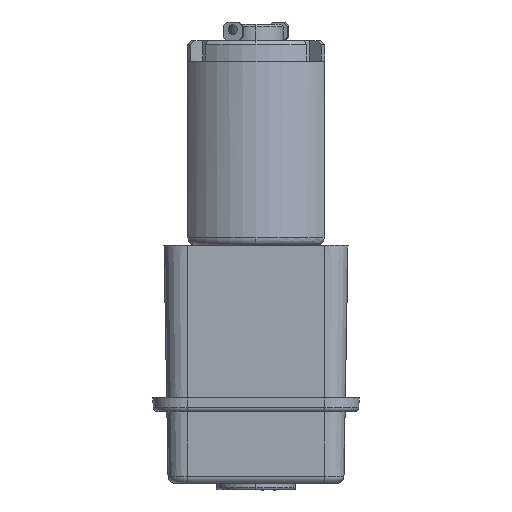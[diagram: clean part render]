
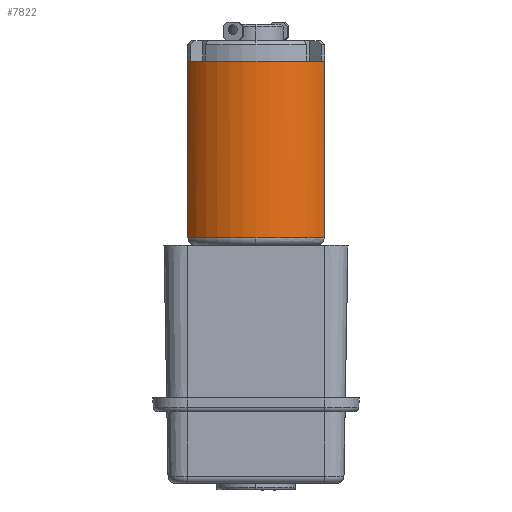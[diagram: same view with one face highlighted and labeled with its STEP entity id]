
A CAD part, front view. The second image highlights one B-rep face of the part: STEP entity #7822.
In plain terms, the highlighted cylindrical face has radius 5.98 mm (diameter 11.96 mm), a partial arc.
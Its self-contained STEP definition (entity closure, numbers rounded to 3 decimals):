
#149 = DIRECTION ( 'NONE',  ( 0., 0., -1. ) ) ;
#344 = AXIS2_PLACEMENT_3D ( 'NONE', #4869, #2894, #11415 ) ;
#448 = DIRECTION ( 'NONE',  ( 0., 1., 0. ) ) ;
#836 = VERTEX_POINT ( 'NONE', #2007 ) ;
#1599 = VERTEX_POINT ( 'NONE', #2464 ) ;
#1665 = ORIENTED_EDGE ( 'NONE', *, *, #5806, .T. ) ;
#1745 = EDGE_CURVE ( 'NONE', #8079, #10672, #6639, .T. ) ;
#1907 = AXIS2_PLACEMENT_3D ( 'NONE', #7582, #11888, #13058 ) ;
#2007 = CARTESIAN_POINT ( 'NONE',  ( -4.725, 13.45, 3.665 ) ) ;
#2055 = ORIENTED_EDGE ( 'NONE', *, *, #7796, .F. ) ;
#2135 = VERTEX_POINT ( 'NONE', #11173 ) ;
#2421 = CARTESIAN_POINT ( 'NONE',  ( 0., 0.6, 0. ) ) ;
#2441 = CARTESIAN_POINT ( 'NONE',  ( 4.95, 13.45, 3.355 ) ) ;
#2464 = CARTESIAN_POINT ( 'NONE',  ( 4.95, 0.6, 3.355 ) ) ;
#2581 = ORIENTED_EDGE ( 'NONE', *, *, #6054, .T. ) ;
#2741 = VECTOR ( 'NONE', #4980, 1000. ) ;
#2894 = DIRECTION ( 'NONE',  ( 0., 1., 0. ) ) ;
#2976 = DIRECTION ( 'NONE',  ( 0., 1., 0. ) ) ;
#3423 = CARTESIAN_POINT ( 'NONE',  ( -4.95, 0.6, 3.355 ) ) ;
#3565 = CARTESIAN_POINT ( 'NONE',  ( 4.725, 13.45, 3.665 ) ) ;
#3886 = EDGE_CURVE ( 'NONE', #2135, #836, #12218, .T. ) ;
#3900 = CARTESIAN_POINT ( 'NONE',  ( 0., 0.6, 0. ) ) ;
#3952 = ORIENTED_EDGE ( 'NONE', *, *, #10544, .F. ) ;
#4175 = ORIENTED_EDGE ( 'NONE', *, *, #9539, .F. ) ;
#4842 = CYLINDRICAL_SURFACE ( 'NONE', #8389, 5.98 ) ;
#4869 = CARTESIAN_POINT ( 'NONE',  ( 0., 13.45, 0. ) ) ;
#4980 = DIRECTION ( 'NONE',  ( 0., -1., 0. ) ) ;
#5155 = CARTESIAN_POINT ( 'NONE',  ( 0., 13.45, 0. ) ) ;
#5806 = EDGE_CURVE ( 'NONE', #2135, #8079, #13459, .T. ) ;
#5936 = AXIS2_PLACEMENT_3D ( 'NONE', #12724, #10530, #11636 ) ;
#6054 = EDGE_CURVE ( 'NONE', #10672, #1599, #6793, .T. ) ;
#6131 = ORIENTED_EDGE ( 'NONE', *, *, #3886, .F. ) ;
#6135 = DIRECTION ( 'NONE',  ( 0., 0., 1. ) ) ;
#6232 = AXIS2_PLACEMENT_3D ( 'NONE', #5155, #2976, #11289 ) ;
#6256 = ORIENTED_EDGE ( 'NONE', *, *, #12884, .F. ) ;
#6314 = VERTEX_POINT ( 'NONE', #8547 ) ;
#6393 = DIRECTION ( 'NONE',  ( 0., 1., 0. ) ) ;
#6415 = CIRCLE ( 'NONE', #344, 5.98 ) ;
#6504 = ORIENTED_EDGE ( 'NONE', *, *, #1745, .T. ) ;
#6619 = CARTESIAN_POINT ( 'NONE',  ( 0., 13.45, 0. ) ) ;
#6639 = CIRCLE ( 'NONE', #10177, 5.98 ) ;
#6688 = FACE_OUTER_BOUND ( 'NONE', #9691, .T. ) ;
#6793 = CIRCLE ( 'NONE', #8556, 5.98 ) ;
#6808 = CARTESIAN_POINT ( 'NONE',  ( 0., 13.45, 0. ) ) ;
#6943 = DIRECTION ( 'NONE',  ( 0., 0., 1. ) ) ;
#7206 = AXIS2_PLACEMENT_3D ( 'NONE', #6808, #8954, #6943 ) ;
#7354 = EDGE_CURVE ( 'NONE', #836, #12468, #12152, .T. ) ;
#7582 = CARTESIAN_POINT ( 'NONE',  ( 0., 13.45, 0. ) ) ;
#7796 = EDGE_CURVE ( 'NONE', #12101, #11172, #8176, .T. ) ;
#7822 = ADVANCED_FACE ( 'NONE', ( #6688 ), #4842, .T. ) ;
#8079 = VERTEX_POINT ( 'NONE', #3423 ) ;
#8176 = CIRCLE ( 'NONE', #1907, 5.98 ) ;
#8196 = CARTESIAN_POINT ( 'NONE',  ( 0., 0.6, 5.98 ) ) ;
#8389 = AXIS2_PLACEMENT_3D ( 'NONE', #6619, #12985, #149 ) ;
#8493 = ORIENTED_EDGE ( 'NONE', *, *, #7354, .F. ) ;
#8547 = CARTESIAN_POINT ( 'NONE',  ( 3.665, 13.45, 4.725 ) ) ;
#8556 = AXIS2_PLACEMENT_3D ( 'NONE', #2421, #448, #9001 ) ;
#8886 = LINE ( 'NONE', #2441, #12278 ) ;
#8954 = DIRECTION ( 'NONE',  ( 0., 1., 0. ) ) ;
#9001 = DIRECTION ( 'NONE',  ( 0., 0., 1. ) ) ;
#9399 = CARTESIAN_POINT ( 'NONE',  ( 4.95, 13.45, 3.355 ) ) ;
#9539 = EDGE_CURVE ( 'NONE', #12468, #6314, #10292, .T. ) ;
#9691 = EDGE_LOOP ( 'NONE', ( #1665, #6504, #2581, #3952, #2055, #6256, #4175, #8493, #6131 ) ) ;
#10177 = AXIS2_PLACEMENT_3D ( 'NONE', #3900, #6393, #6135 ) ;
#10292 = CIRCLE ( 'NONE', #7206, 5.98 ) ;
#10530 = DIRECTION ( 'NONE',  ( 0., 1., 0. ) ) ;
#10544 = EDGE_CURVE ( 'NONE', #11172, #1599, #8886, .T. ) ;
#10672 = VERTEX_POINT ( 'NONE', #8196 ) ;
#11172 = VERTEX_POINT ( 'NONE', #9399 ) ;
#11173 = CARTESIAN_POINT ( 'NONE',  ( -4.95, 13.45, 3.355 ) ) ;
#11289 = DIRECTION ( 'NONE',  ( 0., 0., 1. ) ) ;
#11415 = DIRECTION ( 'NONE',  ( 0., 0., 1. ) ) ;
#11636 = DIRECTION ( 'NONE',  ( 0., 0., 1. ) ) ;
#11888 = DIRECTION ( 'NONE',  ( 0., 1., 0. ) ) ;
#12031 = CARTESIAN_POINT ( 'NONE',  ( -3.665, 13.45, 4.725 ) ) ;
#12101 = VERTEX_POINT ( 'NONE', #3565 ) ;
#12152 = CIRCLE ( 'NONE', #5936, 5.98 ) ;
#12218 = CIRCLE ( 'NONE', #6232, 5.98 ) ;
#12278 = VECTOR ( 'NONE', #13176, 1000. ) ;
#12468 = VERTEX_POINT ( 'NONE', #12031 ) ;
#12724 = CARTESIAN_POINT ( 'NONE',  ( 0., 13.45, 0. ) ) ;
#12884 = EDGE_CURVE ( 'NONE', #6314, #12101, #6415, .T. ) ;
#12985 = DIRECTION ( 'NONE',  ( 0., -1., 0. ) ) ;
#13058 = DIRECTION ( 'NONE',  ( 0., 0., 1. ) ) ;
#13176 = DIRECTION ( 'NONE',  ( 0., -1., 0. ) ) ;
#13385 = CARTESIAN_POINT ( 'NONE',  ( -4.95, 13.45, 3.355 ) ) ;
#13459 = LINE ( 'NONE', #13385, #2741 ) ;
